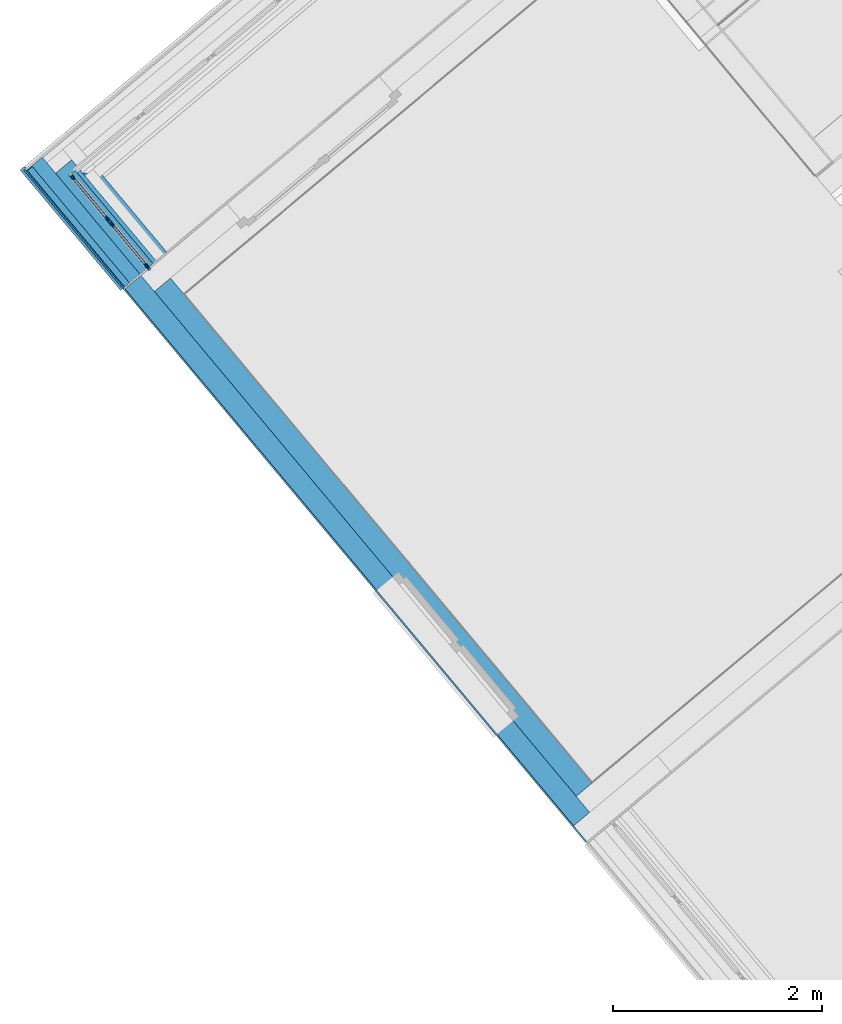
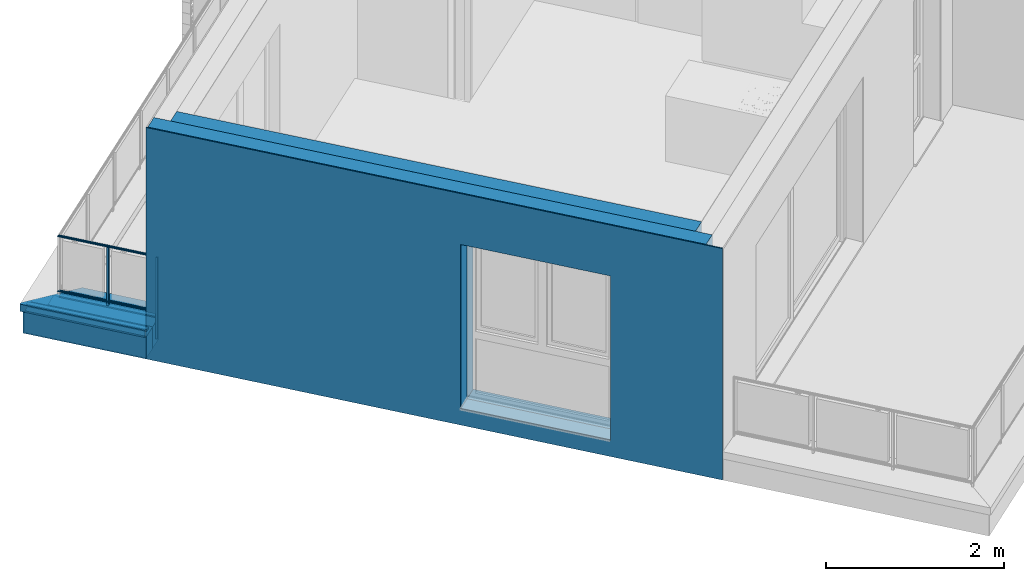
# One storey, part 12 of 50: 13 building element parts, 1 opening, 3 elements without a shape of their own.
"""IFC4 building model written with IfcOpenShell, lengths in metres."""

from ifc_helpers import new_model, entity, si_unit, converted_unit, derived_unit, direction, frame, origin_with_axes, place, context, subcontext, project, spatial, polygons, material, type_object, element, aggregate, save


model = new_model("IFC4")

# Units and contexts
model_context = context("Model", 3, precision=1e-05, world=origin_with_axes(), true_north=direction((0.0, 1.0)))
body_context = subcontext(model_context, "Body", "Model", "MODEL_VIEW")
ifc_project = project(units=[si_unit("LENGTHUNIT", "METRE"), si_unit("AREAUNIT", "SQUARE_METRE"), si_unit("VOLUMEUNIT", "CUBIC_METRE"), converted_unit("PLANEANGLEUNIT", "DEGREE", entity("IfcPlaneAngleMeasure", 0.0174532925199), si_unit("PLANEANGLEUNIT", "RADIAN"), dimensions=[0, 0, 0, 0, 0, 0, 0]), converted_unit("TIMEUNIT", "Year", entity("IfcTimeMeasure", 31556926.0), si_unit("TIMEUNIT", "SECOND"), dimensions=[0, 0, 1, 0, 0, 0, 0]), si_unit("MASSUNIT", "GRAM", prefix="KILO"), si_unit("THERMODYNAMICTEMPERATUREUNIT", "DEGREE_CELSIUS"), si_unit("LUMINOUSINTENSITYUNIT", "LUMEN"), si_unit("ENERGYUNIT", "JOULE", prefix="MEGA"), derived_unit("THERMALCONDUCTANCEUNIT", [(si_unit("POWERUNIT", "WATT"), 1), (si_unit("LENGTHUNIT", "METRE"), -1), (si_unit("THERMODYNAMICTEMPERATUREUNIT", "KELVIN"), -1)]), derived_unit("SPECIFICHEATCAPACITYUNIT", [(si_unit("ENERGYUNIT", "JOULE"), 1), (si_unit("MASSUNIT", "GRAM", prefix="KILO"), -1), (si_unit("THERMODYNAMICTEMPERATUREUNIT", "KELVIN"), -1)]), derived_unit("MASSDENSITYUNIT", [(si_unit("MASSUNIT", "GRAM", prefix="KILO"), 1), (si_unit("VOLUMEUNIT", "CUBIC_METRE"), -1)])], contexts=[model_context])

# Site, building, storey
site_placement = place(None, frame((-0.00153261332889, -0.00661245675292, 0.0), z_axis=(0.0, 0.0, 1.0), x_axis=(1.0, 0.0, 0.0)))
site = spatial("IfcSite", under=ifc_project, at=site_placement, Name="Gelände", CompositionType="ELEMENT")
building_placement = place(site_placement, origin_with_axes())
building = spatial("IfcBuilding", under=site, at=building_placement, Name="Gebäude", CompositionType="ELEMENT")
storey_placement = place(building_placement, frame((0.0, 0.0, 8.66), z_axis=(0.0, 0.0, 1.0), x_axis=(1.0, 0.0, 0.0)))
storey = spatial("IfcBuildingStorey", under=building, at=storey_placement, Name="DG2", CompositionType="ELEMENT", Elevation=8.66)

# Wall, opening, building element parts
wall_type_1 = type_object("IfcWallType", Name="AW EG 420", PredefinedType="NOTDEFINED")
wall_1_placement = place(storey_placement, frame((-7.73758680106, 17.8868192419, 0.0), z_axis=(0.0, 0.0, 1.0), x_axis=(0.641209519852, -0.767365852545, 0.0)))
wall_1 = element("IfcWall", 1, at=wall_1_placement, inside=storey, type_object=wall_type_1, Name="Wand-002", PredefinedType="NOTDEFINED")
opening_placement = place(wall_1_placement, frame((4.66869995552, 0.0, 0.22), z_axis=(0.0, 0.0, 1.0), x_axis=(1.0, 0.0, 0.0)))
element("IfcOpeningElement", 2, at=opening_placement, cuts=wall_1, Name="Fenster-001", context=body_context, identifier="Reference", shape_type="Tessellation", body=[
    polygons([(0.9, 0.215, 0.0), (0.9, 0.215, 2.26), (0.9, -3.40708164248, 2.26), (0.9, -3.40708164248, 0.0), (0.9, 3.82708164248, 0.0), (0.9, 3.82708164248, 2.26), (-0.9, 0.215, 2.26), (-0.9, -3.40708164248, 2.26), (-0.9, 3.82708164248, 2.26), (-0.9, -3.40708164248, 0.0), (-0.9, 0.215, 0.0), (-0.9, 3.82708164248, 0.0)], [[[1, 2, 3, 4]], [[2, 1, 5, 6]], [[7, 8, 3, 2, 6, 9]], [[8, 10, 4, 3]], [[1, 4, 10, 11, 12, 5]], [[6, 5, 12, 9]], [[7, 11, 10, 8]], [[11, 7, 9, 12]]], closed=True),
])
ifc_material_1 = material(Name="Stahlbeton Wand")
building_element_part_1_placement = place(wall_1_placement, origin_with_axes())
building_element_part_1 = element("IfcBuildingElementPart", 3, at=building_element_part_1_placement, material=ifc_material_1, Name="Stahlbeton Wand", PredefinedType="NOTDEFINED", context=body_context, shape_type="Tessellation", body=[
    polygons([(6.50719505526, 0.215, 3.18), (0.214999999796, 0.215, 3.18), (0.214999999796, 0.215, 0.0), (6.50719505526, 0.215, 0.0), (3.76869995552, 0.215, 0.22), (3.76869995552, 0.215, 2.48), (5.56869995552, 0.215, 2.48), (5.56869995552, 0.215, 0.22), (6.5070648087, 0.415, 3.18), (0.214999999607, 0.415, 3.18), (0.214999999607, 0.415, 0.0), (6.5070648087, 0.415, 0.0), (3.76869995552, 0.415, 0.22), (3.76869995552, 0.415, 2.48), (5.56869995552, 0.415, 2.48), (5.56869995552, 0.415, 0.22)], [[[1, 2, 3, 4], [5, 6, 7, 8]], [[9, 10, 2, 1]], [[11, 3, 2, 10]], [[4, 3, 11, 12]], [[12, 9, 1, 4]], [[13, 14, 6, 5]], [[14, 15, 7, 6]], [[15, 16, 8, 7]], [[16, 13, 5, 8]], [[12, 11, 10, 9], [13, 16, 15, 14]]], closed=True),
])
ifc_material_2 = material(Name="EPS 1")
building_element_part_2_placement = place(wall_1_placement, origin_with_axes())
building_element_part_2 = element("IfcBuildingElementPart", 4, at=building_element_part_2_placement, material=ifc_material_2, Name="EPS 1", PredefinedType="NOTDEFINED", context=body_context, shape_type="Tessellation", body=[
    polygons([(6.70732534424, 0.015, 3.18), (0.0149999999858, 0.015, 3.18), (0.0149999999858, 0.015, 0.0), (6.70732534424, 0.015, 0.0), (3.76869995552, 0.015, 0.22), (3.76869995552, 0.015, 2.48), (5.56869995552, 0.015, 2.48), (5.56869995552, 0.015, 0.22), (6.70719509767, 0.215, 3.18), (0.0149999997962, 0.215, 3.18), (0.0149999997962, 0.215, 0.0), (6.70719509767, 0.215, 0.0), (3.76869995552, 0.215, 0.22), (3.76869995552, 0.215, 2.48), (5.56869995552, 0.215, 2.48), (5.56869995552, 0.215, 0.22)], [[[1, 2, 3, 4], [5, 6, 7, 8]], [[9, 10, 2, 1]], [[11, 3, 2, 10]], [[4, 3, 11, 12]], [[12, 9, 1, 4]], [[13, 14, 6, 5]], [[14, 15, 7, 6]], [[15, 16, 8, 7]], [[16, 13, 5, 8]], [[12, 11, 10, 9], [13, 16, 15, 14]]], closed=True),
])
ifc_material_3 = material(Name="Zementputz")
building_element_part_3_placement = place(wall_1_placement, origin_with_axes())
building_element_part_3 = element("IfcBuildingElementPart", 5, at=building_element_part_3_placement, material=ifc_material_3, Name="Zementputz", PredefinedType="NOTDEFINED", context=body_context, shape_type="Tessellation", body=[
    polygons([(6.90733515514, 0.0, 3.18), (0.0, 0.0, 3.18), (0.0, 0.0, 0.0), (6.90733515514, 0.0, 0.0), (3.76869995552, 0.0, 0.22), (3.76869995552, 0.0, 2.48), (5.56869995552, 0.0, 2.48), (5.56869995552, 0.0, 0.22), (6.90732538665, 0.015, 3.18), (0.0, 0.015, 3.18), (0.0, 0.015, 0.0), (6.90732538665, 0.015, 0.0), (3.76869995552, 0.015, 0.22), (3.76869995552, 0.015, 2.48), (5.56869995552, 0.015, 2.48), (5.56869995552, 0.015, 0.22)], [[[1, 2, 3, 4], [5, 6, 7, 8]], [[9, 10, 2, 1]], [[11, 3, 2, 10]], [[4, 3, 11, 12]], [[12, 9, 1, 4]], [[13, 14, 6, 5]], [[14, 15, 7, 6]], [[15, 16, 8, 7]], [[16, 13, 5, 8]], [[12, 11, 10, 9], [13, 16, 15, 14]]], closed=True),
])
aggregate(wall_1, [building_element_part_1, building_element_part_2, building_element_part_3])

# Wall, building element parts
wall_type_2 = type_object("IfcWallType", Name="Bauteil - Attika Terrasse 1.DG 574 x 410", PredefinedType="NOTDEFINED")
wall_2_placement = place(storey_placement, frame((-7.57260314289, 18.0246792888, -0.2), z_axis=(0.0, 0.0, 1.0), x_axis=(-0.641209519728, 0.767365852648, 0.0)))
wall_2 = element("IfcWall", 6, at=wall_2_placement, inside=storey, type_object=wall_type_2, Name="Wand-004", PredefinedType="NOTDEFINED")
building_element_part_4_placement = place(wall_2_placement, origin_with_axes())
building_element_part_4 = element("IfcBuildingElementPart", 7, at=building_element_part_4_placement, material=ifc_material_3, Name="Zementputz", PredefinedType="NOTDEFINED", context=body_context, shape_type="Tessellation", body=[
    polygons([(1.47453762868, 0.199999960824, 0.2), (1.47453762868, 0.199999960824, 0.499999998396), (0.0, 0.199999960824, 0.499999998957), (0.0, 0.199999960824, 0.2), (1.47453762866, 0.214999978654, 0.2), (1.47453762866, 0.214999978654, 0.499999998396), (0.0, 0.214999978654, 0.499999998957), (0.0, 0.214999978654, 0.2)], [[[1, 2, 3, 4]], [[2, 1, 5, 6]], [[2, 6, 7, 3]], [[4, 3, 7, 8]], [[5, 1, 4, 8]], [[6, 5, 8, 7]]], closed=True),
])
ifc_material_4 = material(Name="Vollholz")
building_element_part_5_placement = place(wall_2_placement, origin_with_axes())
building_element_part_5 = element("IfcBuildingElementPart", 8, at=building_element_part_5_placement, material=ifc_material_4, Name="Vollholz", PredefinedType="NOTDEFINED", context=body_context, shape_type="Tessellation", body=[
    polygons([(1.44953379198, 0.189996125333, 0.584015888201), (1.44953379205, 0.130124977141, 0.584015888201), (1.44957690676, 0.130124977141, 0.575979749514), (1.4495769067, 0.190039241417, 0.575979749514), (1.44952269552, 0.189984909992, 0.58610624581), (0.0, 0.130124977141, 0.584015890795), (0.0, 0.130124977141, 0.560000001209), (1.44966263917, 0.130124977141, 0.559999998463), (1.44961999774, 0.130124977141, 0.567947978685), (1.44958816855, 0.130124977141, 0.573880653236), (1.44958816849, 0.190050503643, 0.573880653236), (1.44961999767, 0.190082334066, 0.567947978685), (1.44966263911, 0.190124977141, 0.559999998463), (0.0, 0.190124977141, 0.560000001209), (0.0, 0.189984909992, 0.586106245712)], [[[1, 2, 3, 4]], [[5, 2, 1]], [[3, 2, 6, 7, 8, 9, 10]], [[4, 3, 10, 11]], [[5, 1, 4, 11, 12, 13, 14, 15]], [[2, 5, 15, 6]], [[6, 15, 14, 7]], [[13, 8, 7, 14]], [[12, 9, 8, 13]], [[11, 10, 9, 12]]], closed=True),
])
building_element_part_6_placement = place(wall_2_placement, origin_with_axes())
building_element_part_6 = element("IfcBuildingElementPart", 9, at=building_element_part_6_placement, material=ifc_material_2, Name="EPS 1", PredefinedType="NOTDEFINED", context=body_context, shape_type="Tessellation", body=[
    polygons([(1.45953762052, 2.39911202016e-10, 0.498822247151), (1.45953762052, 2.39911202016e-10, 0.499999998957), (0.0, 2.39910313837e-10, 0.499999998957), (0.0, 2.39910313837e-10, 0.2), (1.45953762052, 2.39911202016e-10, 0.2), (1.45953762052, 2.39911202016e-10, 0.335), (1.45953762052, 2.39911202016e-10, 0.488695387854), (1.45953762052, 2.39911202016e-10, 0.49100648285), (1.45953762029, 0.19999996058, 0.499999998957), (1.45953762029, 0.19999996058, 0.498822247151), (0.0, 0.19999996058, 0.499999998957), (0.0, 0.19999996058, 0.2), (1.45953762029, 0.19999996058, 0.2), (1.45953762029, 0.19999996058, 0.335), (1.45953762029, 0.19999996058, 0.488695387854), (1.45953762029, 0.19999996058, 0.49100648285)], [[[1, 2, 3, 4, 5, 6, 7, 8]], [[9, 2, 1, 10]], [[2, 9, 11, 3]], [[4, 3, 11, 12]], [[13, 5, 4, 12]], [[14, 6, 5, 13]], [[15, 7, 6, 14]], [[16, 8, 7, 15]], [[10, 1, 8, 16]], [[9, 10, 16, 15, 14, 13, 12, 11]]], closed=True),
])
ifc_material_5 = material(Name="Stahlbeton")
building_element_part_7_placement = place(wall_2_placement, origin_with_axes())
building_element_part_7 = element("IfcBuildingElementPart", 10, at=building_element_part_7_placement, material=ifc_material_5, Name="Stahlbeton", PredefinedType="NOTDEFINED", context=body_context, shape_type="Tessellation", body=[
    polygons([(1.25953766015, -0.199999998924, 0.498822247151), (1.25953766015, -0.199999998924, 0.499999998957), (0.0, -0.199999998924, 0.500000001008), (0.0, -0.199999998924, 0.335000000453), (1.25953766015, -0.199999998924, 0.335), (1.25953766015, -0.199999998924, 0.488695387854), (1.25953766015, -0.199999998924, 0.49100648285), (1.25953765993, -1.82835613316e-09, 0.499999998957), (1.25953765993, -1.82835613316e-09, 0.498822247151), (0.0, -1.82835524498e-09, 0.500000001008), (0.0, -1.82835524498e-09, 0.2), (0.0, -0.199999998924, 0.2), (1.25953766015, -0.199999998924, 0.2), (1.25953765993, -1.82835613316e-09, 0.488695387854), (1.25953765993, -1.82835613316e-09, 0.335), (1.25953765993, -1.82835613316e-09, 0.49100648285), (1.25953765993, -1.82835613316e-09, 0.2)], [[[1, 2, 3, 4, 5, 6, 7]], [[8, 2, 1, 9]], [[2, 8, 10, 3]], [[4, 3, 10, 11, 12]], [[13, 5, 4, 12]], [[14, 6, 5, 15]], [[16, 7, 6, 14]], [[9, 1, 7, 16]], [[8, 9, 16, 14, 15, 17, 11, 10]], [[17, 13, 12, 11]], [[15, 5, 13, 17]]], closed=True),
])
building_element_part_8_placement = place(wall_2_placement, origin_with_axes())
building_element_part_8 = element("IfcBuildingElementPart", 11, at=building_element_part_8_placement, material=ifc_material_4, Name="Vollholz", PredefinedType="NOTDEFINED", context=body_context, shape_type="Tessellation", body=[
    polygons([(1.15953766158, -0.1, 0.573880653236), (1.15953766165, -0.160110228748, 0.573880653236), (1.15953766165, -0.160063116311, 0.567947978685), (1.15953766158, -0.1, 0.567947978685), (1.15953766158, -0.1, 0.575979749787), (0.0, -0.160110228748, 0.573880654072), (0.0, -0.16, 0.560000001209), (1.15953766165, -0.16, 0.559999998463), (1.15953766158, -0.1, 0.559999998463), (0.0, -0.1, 0.560000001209), (0.0, -0.1, 0.575979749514)], [[[1, 2, 3, 4]], [[5, 2, 1]], [[3, 2, 6, 7, 8]], [[4, 3, 8, 9]], [[5, 1, 4, 9, 10, 11]], [[2, 5, 11, 6]], [[6, 11, 10, 7]], [[9, 8, 7, 10]]], closed=True),
])
ifc_material_6 = material(Name="Stahl")
building_element_part_9_placement = place(wall_2_placement, origin_with_axes())
building_element_part_9 = element("IfcBuildingElementPart", 12, at=building_element_part_9_placement, material=ifc_material_6, Name="Stahl", PredefinedType="NOTDEFINED", context=body_context, shape_type="Tessellation", body=[
    polygons([(1.5000806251, 0.240542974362, 0.50905023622), (1.50103791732, 0.241500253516, 0.510007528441), (1.50103791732, 0.239585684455, 0.510007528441), (0.0, 0.240542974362, 0.509050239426), (0.0, 0.241500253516, 0.510007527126), (1.50103791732, 0.241500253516, 0.610006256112), (1.50103791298, 0.202730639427, 0.608602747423), (1.50103791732, 0.240152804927, 0.608602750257), (1.50103791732, 0.240146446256, 0.51136132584), (1.50103791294, 0.238231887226, 0.511361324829), (1.49968410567, 0.23823188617, 0.511361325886), (1.49282563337, 0.231373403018, 0.518219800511), (0.0, 0.231373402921, 0.518219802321), (0.0, 0.232283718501, 0.519224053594), (0.0, 0.240146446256, 0.51136132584), (0.0, 0.240152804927, 0.608602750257), (0.0, 0.239276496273, 0.608570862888), (0.0, -0.330698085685, 0.587937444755), (0.0, -0.330698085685, 0.491006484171), (0.0, -0.32288233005, 0.498822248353), (0.0, -0.321878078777, 0.497911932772), (0.0, -0.331094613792, 0.488695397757), (0.0, -0.332051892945, 0.489652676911), (0.0, -0.332051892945, 0.589243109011), (0.0, 0.241500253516, 0.610006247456), (0.96487686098, -0.332051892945, 0.589243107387), (1.49881415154, 0.201849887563, 0.608570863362), (1.49969046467, 0.202730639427, 0.608602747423), (1.49969046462, 0.240152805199, 0.608602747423), (1.49968410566, 0.240146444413, 0.511361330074), (1.49182138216, 0.232283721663, 0.519224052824), (1.4988141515, 0.239276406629, 0.608570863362), (0.928839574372, -0.330665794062, 0.587938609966), (0.928839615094, -0.330698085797, 0.587937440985), (0.928839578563, -0.330698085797, 0.586106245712), (0.928839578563, -0.330698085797, 0.584015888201), (0.928839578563, -0.330698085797, 0.575979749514), (0.928839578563, -0.330698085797, 0.573880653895), (0.928839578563, -0.330698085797, 0.567947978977), (0.928839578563, -0.330698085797, 0.559999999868), (0.928839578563, -0.330698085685, 0.519224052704), (0.928839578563, -0.330698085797, 0.511361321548), (0.928839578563, -0.330698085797, 0.50905024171), (0.928839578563, -0.330698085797, 0.499999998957), (0.928839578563, -0.330698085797, 0.498822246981), (0.928839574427, -0.330698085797, 0.491006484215), (0.930754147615, -0.330698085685, 0.491006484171), (0.937659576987, -0.323792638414, 0.497911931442), (0.93665532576, -0.32288233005, 0.498822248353), (0.937659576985, -0.321878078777, 0.497911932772), (0.930754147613, -0.328783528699, 0.49100648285), (0.9284430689, -0.331094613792, 0.488695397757), (0.929400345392, -0.332051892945, 0.489652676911), (0.930754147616, -0.332051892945, 0.49100648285), (0.928839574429, -0.332051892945, 0.491006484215), (0.928839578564, -0.332051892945, 0.498822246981), (0.928839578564, -0.332051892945, 0.499999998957), (0.928839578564, -0.332051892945, 0.50905024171), (0.928839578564, -0.332051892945, 0.511361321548), (0.928839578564, -0.332051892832, 0.519224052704), (0.928839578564, -0.332051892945, 0.559999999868), (0.928839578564, -0.332051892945, 0.567947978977), (0.928839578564, -0.332051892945, 0.573880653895), (0.928839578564, -0.332051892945, 0.575979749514), (0.928839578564, -0.332051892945, 0.584015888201), (0.928839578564, -0.332051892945, 0.586106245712), (0.928839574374, -0.332051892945, 0.587938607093)], [[[1, 2, 3]], [[2, 1, 4, 5]], [[3, 2, 6, 7, 8, 9, 10]], [[1, 3, 10, 11, 12, 13, 4]], [[5, 4, 13, 14, 15, 16, 17, 18, 19, 20, 21, 22, 23, 24, 25]], [[6, 2, 5, 25]], [[26, 27, 28, 7, 6, 25, 24]], [[29, 8, 7, 28]], [[30, 9, 8, 29, 16, 15]], [[9, 30, 11, 10]], [[30, 31, 12, 11]], [[12, 31, 14, 13]], [[31, 30, 15, 14]], [[29, 32, 17, 16]], [[32, 33, 34, 18, 17]], [[18, 34, 35, 36, 37, 38, 39, 40, 41, 42, 43, 44, 45, 46, 19]], [[47, 48, 49, 20, 19, 46]], [[49, 50, 21, 20]], [[50, 51, 52, 22, 21]], [[52, 53, 23, 22]], [[53, 54, 55, 56, 57, 58, 59, 60, 61, 62, 63, 64, 65, 66, 67, 26, 24, 23]], [[33, 32, 27, 26, 67, 34]], [[32, 29, 28, 27]], [[35, 34, 67, 66]], [[36, 35, 66, 65]], [[37, 36, 65, 64]], [[38, 37, 64, 63]], [[39, 38, 63, 62]], [[40, 39, 62, 61]], [[40, 61, 60, 41]], [[42, 41, 60, 59]], [[43, 42, 59, 58]], [[44, 43, 58, 57]], [[56, 45, 44, 57]], [[46, 45, 56, 55]], [[48, 47, 51, 50]], [[48, 50, 49]], [[47, 46, 55, 54]], [[51, 47, 54, 53, 52]]], closed=True),
])
aggregate(wall_2, [building_element_part_4, building_element_part_5, building_element_part_6, building_element_part_7, building_element_part_8, building_element_part_9])

# Space
space_placement = place(storey_placement, frame((-4.06558748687, 22.1637970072, 0.22), z_axis=(0.0, 0.0, 1.0), x_axis=(-0.767365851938, -0.641209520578, 0.0)))
space = spatial("IfcSpace", under=storey, at=space_placement, CompositionType="ELEMENT", PredefinedType="NOTDEFINED")

# Railing, building element parts
railing_type = type_object("IfcRailingType", Name="Geländerart", PredefinedType="NOTDEFINED")
railing_placement = place(space_placement, frame((5.14520574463, 0.942485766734, 0.16), z_axis=(0.0, 0.0, 1.0), x_axis=(-0.767365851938, 0.641209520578, 0.0)))
railing = element("IfcRailing", 13, at=railing_placement, inside=space, type_object=railing_type, Name="Geländer - 001", PredefinedType="NOTDEFINED")
ifc_material_7 = material(Name="Aluminium")
building_element_part_10_placement = place(railing_placement, origin_with_axes())
building_element_part_10 = element("IfcBuildingElementPart", 14, at=building_element_part_10_placement, material=ifc_material_7, Name="Aluminium", PredefinedType="NOTDEFINED", context=body_context, shape_type="Tessellation", body=[
    polygons([(-0.0751596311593, -0.0465137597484, -0.3), (-0.0943437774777, -0.0625439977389, -0.3), (-0.0943437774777, -0.0625439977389, 0.82), (-0.0751596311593, -0.0465137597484, 0.82), (-0.0591293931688, -0.0656979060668, -0.3), (-0.0783135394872, -0.0817281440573, -0.3), (-0.0783135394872, -0.0817281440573, 0.82), (-0.0591293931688, -0.0656979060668, 0.82)], [[[1, 2, 3, 4]], [[1, 5, 6, 2]], [[2, 6, 7, 3]], [[4, 3, 7, 8]], [[5, 1, 4, 8]], [[6, 5, 8, 7]]], closed=True),
])
building_element_part_11_placement = place(railing_placement, origin_with_axes())
building_element_part_11 = element("IfcBuildingElementPart", 15, at=building_element_part_11_placement, material=ifc_material_7, Name="Aluminium", PredefinedType="NOTDEFINED", context=body_context, shape_type="Tessellation", body=[
    polygons([(-0.0882470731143, -0.0737390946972, 0.825), (-0.0880722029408, -0.0735929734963, 0.827604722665), (-0.850668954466, 0.839042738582, 0.827604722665), (-0.850989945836, 0.83907148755, 0.825), (-0.0880722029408, -0.0735929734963, 0.822395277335), (-0.0875529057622, -0.0731590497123, 0.81986969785), (-0.0867049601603, -0.0724505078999, 0.8175), (-0.0855541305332, -0.0714888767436, 0.815358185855), (-0.0841353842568, -0.0703033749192, 0.813509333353), (-0.0824918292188, -0.0689300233, 0.812009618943), (-0.0806734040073, -0.0674105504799, 0.810904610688), (-0.0787353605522, -0.0657911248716, 0.810227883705), (-0.0767365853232, -0.0641209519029, 0.81), (-0.0747378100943, -0.0624507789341, 0.810227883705), (-0.0727997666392, -0.0608313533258, 0.810904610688), (-0.0709813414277, -0.0593118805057, 0.812009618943), (-0.0693377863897, -0.0579385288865, 0.813509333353), (-0.0679190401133, -0.0567530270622, 0.815358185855), (-0.0667682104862, -0.0557913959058, 0.8175), (-0.0659202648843, -0.0550828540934, 0.81986969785), (-0.0654009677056, -0.0546489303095, 0.822395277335), (-0.0652260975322, -0.0545028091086, 0.825), (-0.0654009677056, -0.0546489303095, 0.827604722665), (-0.0659202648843, -0.0550828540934, 0.83013030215), (-0.0667682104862, -0.0557913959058, 0.8325), (-0.0679190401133, -0.0567530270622, 0.834641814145), (-0.0693377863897, -0.0579385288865, 0.836490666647), (-0.0709813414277, -0.0593118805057, 0.837990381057), (-0.0727997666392, -0.0608313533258, 0.839095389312), (-0.0747378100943, -0.0624507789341, 0.839772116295), (-0.0767365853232, -0.0641209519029, 0.84), (-0.0787353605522, -0.0657911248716, 0.839772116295), (-0.0806734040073, -0.0674105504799, 0.839095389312), (-0.0824918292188, -0.0689300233, 0.837990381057), (-0.0841353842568, -0.0703033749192, 0.836490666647), (-0.0855541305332, -0.0714888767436, 0.834641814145), (-0.0867049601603, -0.0724505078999, 0.8325), (-0.0875529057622, -0.0731590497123, 0.83013030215), (-0.849715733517, 0.838957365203, 0.83013030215), (-0.848159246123, 0.838817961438, 0.8325), (-0.846046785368, 0.838628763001, 0.834641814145), (-0.843442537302, 0.838395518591, 0.836490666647), (-0.840425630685, 0.83812531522, 0.837990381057), (-0.837087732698, 0.837826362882, 0.839095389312), (-0.833530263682, 0.837507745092, 0.839772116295), (-0.829861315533, 0.837179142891, 0.84), (-0.826192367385, 0.836850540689, 0.839772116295), (-0.822634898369, 0.836531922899, 0.839095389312), (-0.819297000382, 0.836232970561, 0.837990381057), (-0.816280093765, 0.835962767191, 0.836490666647), (-0.813675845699, 0.83572952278, 0.834641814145), (-0.811563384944, 0.835540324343, 0.8325), (-0.81000689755, 0.835400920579, 0.83013030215), (-0.8090536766, 0.835315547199, 0.827604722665), (-0.80873268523, 0.835286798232, 0.825), (-0.8090536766, 0.835315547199, 0.822395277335), (-0.81000689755, 0.835400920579, 0.81986969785), (-0.811563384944, 0.835540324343, 0.8175), (-0.813675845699, 0.83572952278, 0.815358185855), (-0.816280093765, 0.835962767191, 0.813509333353), (-0.819297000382, 0.836232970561, 0.812009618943), (-0.822634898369, 0.836531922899, 0.810904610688), (-0.826192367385, 0.836850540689, 0.810227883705), (-0.829861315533, 0.837179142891, 0.81), (-0.833530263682, 0.837507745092, 0.810227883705), (-0.837087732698, 0.837826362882, 0.810904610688), (-0.840425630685, 0.83812531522, 0.812009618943), (-0.843442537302, 0.838395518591, 0.813509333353), (-0.846046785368, 0.838628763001, 0.815358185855), (-0.848159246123, 0.838817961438, 0.8175), (-0.849715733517, 0.838957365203, 0.81986969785), (-0.850668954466, 0.839042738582, 0.822395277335)], [[[1, 2, 3, 4]], [[1, 5, 6, 7, 8, 9, 10, 11, 12, 13, 14, 15, 16, 17, 18, 19, 20, 21, 22, 23, 24, 25, 26, 27, 28, 29, 30, 31, 32, 33, 34, 35, 36, 37, 38, 2]], [[2, 38, 39, 3]], [[4, 3, 39, 40, 41, 42, 43, 44, 45, 46, 47, 48, 49, 50, 51, 52, 53, 54, 55, 56, 57, 58, 59, 60, 61, 62, 63, 64, 65, 66, 67, 68, 69, 70, 71, 72]], [[5, 1, 4, 72]], [[6, 5, 72, 71]], [[7, 6, 71, 70]], [[8, 7, 70, 69]], [[9, 8, 69, 68]], [[10, 9, 68, 67]], [[11, 10, 67, 66]], [[12, 11, 66, 65]], [[13, 12, 65, 64]], [[14, 13, 64, 63]], [[15, 14, 63, 62]], [[16, 15, 62, 61]], [[17, 16, 61, 60]], [[18, 17, 60, 59]], [[19, 18, 59, 58]], [[20, 19, 58, 57]], [[21, 20, 57, 56]], [[22, 21, 56, 55]], [[23, 22, 55, 54]], [[24, 23, 54, 53]], [[25, 24, 53, 52]], [[26, 25, 52, 51]], [[27, 26, 51, 50]], [[28, 27, 50, 49]], [[29, 28, 49, 48]], [[30, 29, 48, 47]], [[31, 30, 47, 46]], [[32, 31, 46, 45]], [[33, 32, 45, 44]], [[34, 33, 44, 43]], [[35, 34, 43, 42]], [[36, 35, 42, 41]], [[37, 36, 41, 40]], [[38, 37, 40, 39]]], closed=True),
])
building_element_part_12_placement = place(railing_placement, origin_with_axes())
building_element_part_12 = element("IfcBuildingElementPart", 16, at=building_element_part_12_placement, material=ifc_material_7, Name="Aluminium", PredefinedType="NOTDEFINED", context=body_context, shape_type="Tessellation", body=[
    polygons([(-0.0882470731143, -0.0737390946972, 0.07), (-0.0880722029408, -0.0735929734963, 0.072604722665), (-0.850668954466, 0.839042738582, 0.072604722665), (-0.850989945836, 0.83907148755, 0.07), (-0.0880722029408, -0.0735929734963, 0.067395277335), (-0.0875529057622, -0.0731590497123, 0.0648696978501), (-0.0867049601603, -0.0724505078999, 0.0625), (-0.0855541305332, -0.0714888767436, 0.0603581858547), (-0.0841353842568, -0.0703033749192, 0.0585093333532), (-0.0824918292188, -0.0689300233, 0.0570096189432), (-0.0806734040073, -0.0674105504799, 0.0559046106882), (-0.0787353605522, -0.0657911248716, 0.0552278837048), (-0.0767365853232, -0.0641209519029, 0.055), (-0.0747378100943, -0.0624507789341, 0.0552278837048), (-0.0727997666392, -0.0608313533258, 0.0559046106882), (-0.0709813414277, -0.0593118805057, 0.0570096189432), (-0.0693377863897, -0.0579385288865, 0.0585093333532), (-0.0679190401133, -0.0567530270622, 0.0603581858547), (-0.0667682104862, -0.0557913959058, 0.0625), (-0.0659202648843, -0.0550828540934, 0.0648696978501), (-0.0654009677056, -0.0546489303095, 0.067395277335), (-0.0652260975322, -0.0545028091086, 0.07), (-0.0654009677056, -0.0546489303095, 0.072604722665), (-0.0659202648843, -0.0550828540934, 0.0751303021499), (-0.0667682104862, -0.0557913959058, 0.0775), (-0.0679190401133, -0.0567530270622, 0.0796418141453), (-0.0693377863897, -0.0579385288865, 0.0814906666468), (-0.0709813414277, -0.0593118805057, 0.0829903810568), (-0.0727997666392, -0.0608313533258, 0.0840953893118), (-0.0747378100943, -0.0624507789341, 0.0847721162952), (-0.0767365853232, -0.0641209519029, 0.085), (-0.0787353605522, -0.0657911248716, 0.0847721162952), (-0.0806734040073, -0.0674105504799, 0.0840953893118), (-0.0824918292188, -0.0689300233, 0.0829903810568), (-0.0841353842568, -0.0703033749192, 0.0814906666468), (-0.0855541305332, -0.0714888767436, 0.0796418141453), (-0.0867049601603, -0.0724505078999, 0.0775), (-0.0875529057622, -0.0731590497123, 0.0751303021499), (-0.849715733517, 0.838957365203, 0.0751303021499), (-0.848159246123, 0.838817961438, 0.0775), (-0.846046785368, 0.838628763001, 0.0796418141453), (-0.843442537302, 0.838395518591, 0.0814906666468), (-0.840425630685, 0.83812531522, 0.0829903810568), (-0.837087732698, 0.837826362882, 0.0840953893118), (-0.833530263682, 0.837507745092, 0.0847721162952), (-0.829861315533, 0.837179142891, 0.085), (-0.826192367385, 0.836850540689, 0.0847721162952), (-0.822634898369, 0.836531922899, 0.0840953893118), (-0.819297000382, 0.836232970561, 0.0829903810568), (-0.816280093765, 0.835962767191, 0.0814906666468), (-0.813675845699, 0.83572952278, 0.0796418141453), (-0.811563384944, 0.835540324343, 0.0775), (-0.81000689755, 0.835400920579, 0.0751303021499), (-0.8090536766, 0.835315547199, 0.072604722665), (-0.80873268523, 0.835286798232, 0.07), (-0.8090536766, 0.835315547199, 0.067395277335), (-0.81000689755, 0.835400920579, 0.0648696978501), (-0.811563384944, 0.835540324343, 0.0625), (-0.813675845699, 0.83572952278, 0.0603581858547), (-0.816280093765, 0.835962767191, 0.0585093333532), (-0.819297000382, 0.836232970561, 0.0570096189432), (-0.822634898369, 0.836531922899, 0.0559046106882), (-0.826192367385, 0.836850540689, 0.0552278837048), (-0.829861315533, 0.837179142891, 0.055), (-0.833530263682, 0.837507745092, 0.0552278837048), (-0.837087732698, 0.837826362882, 0.0559046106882), (-0.840425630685, 0.83812531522, 0.0570096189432), (-0.843442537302, 0.838395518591, 0.0585093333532), (-0.846046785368, 0.838628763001, 0.0603581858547), (-0.848159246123, 0.838817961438, 0.0625), (-0.849715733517, 0.838957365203, 0.0648696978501), (-0.850668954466, 0.839042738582, 0.067395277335)], [[[1, 2, 3, 4]], [[1, 5, 6, 7, 8, 9, 10, 11, 12, 13, 14, 15, 16, 17, 18, 19, 20, 21, 22, 23, 24, 25, 26, 27, 28, 29, 30, 31, 32, 33, 34, 35, 36, 37, 38, 2]], [[2, 38, 39, 3]], [[4, 3, 39, 40, 41, 42, 43, 44, 45, 46, 47, 48, 49, 50, 51, 52, 53, 54, 55, 56, 57, 58, 59, 60, 61, 62, 63, 64, 65, 66, 67, 68, 69, 70, 71, 72]], [[5, 1, 4, 72]], [[6, 5, 72, 71]], [[7, 6, 71, 70]], [[8, 7, 70, 69]], [[9, 8, 69, 68]], [[10, 9, 68, 67]], [[11, 10, 67, 66]], [[12, 11, 66, 65]], [[13, 12, 65, 64]], [[14, 13, 64, 63]], [[15, 14, 63, 62]], [[16, 15, 62, 61]], [[17, 16, 61, 60]], [[18, 17, 60, 59]], [[19, 18, 59, 58]], [[20, 19, 58, 57]], [[21, 20, 57, 56]], [[22, 21, 56, 55]], [[23, 22, 55, 54]], [[24, 23, 54, 53]], [[25, 24, 53, 52]], [[26, 25, 52, 51]], [[27, 26, 51, 50]], [[28, 27, 50, 49]], [[29, 28, 49, 48]], [[30, 29, 48, 47]], [[31, 30, 47, 46]], [[32, 31, 46, 45]], [[33, 32, 45, 44]], [[34, 33, 44, 43]], [[35, 34, 43, 42]], [[36, 35, 42, 41]], [[37, 36, 41, 40]], [[38, 37, 40, 39]]], closed=True),
])
building_element_part_13_placement = place(railing_placement, origin_with_axes())
building_element_part_13 = element("IfcBuildingElementPart", 17, at=building_element_part_13_placement, material=ifc_material_7, Name="Aluminium", PredefinedType="NOTDEFINED", context=body_context, shape_type="Tessellation", body=[
    polygons([(-0.451721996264, 0.404136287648, -0.3), (-0.470906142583, 0.388106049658, -0.3), (-0.470906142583, 0.388106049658, 0.82), (-0.451721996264, 0.404136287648, 0.82), (-0.435691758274, 0.38495214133, -0.3), (-0.454875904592, 0.368921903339, -0.3), (-0.454875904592, 0.368921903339, 0.82), (-0.435691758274, 0.38495214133, 0.82)], [[[1, 2, 3, 4]], [[1, 5, 6, 2]], [[2, 6, 7, 3]], [[4, 3, 7, 8]], [[5, 1, 4, 8]], [[6, 5, 8, 7]]], closed=True),
])
aggregate(railing, [building_element_part_10, building_element_part_11, building_element_part_12, building_element_part_13])

save(model, "model.ifc")
